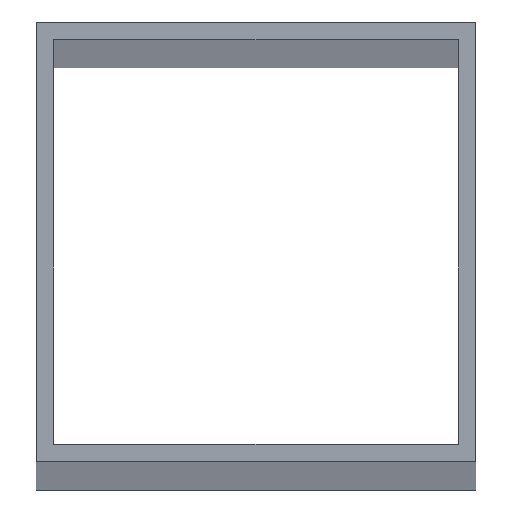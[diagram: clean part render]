
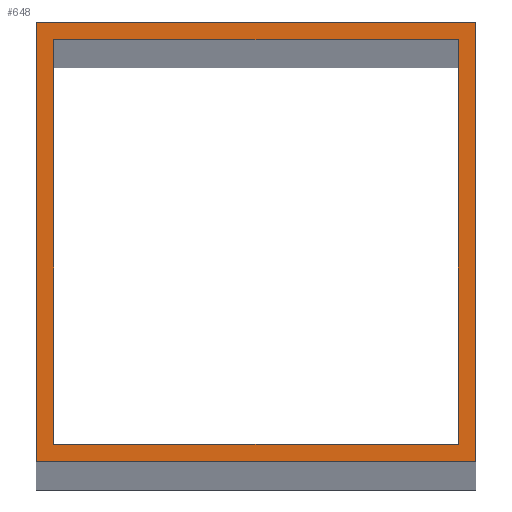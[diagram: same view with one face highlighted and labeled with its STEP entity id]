
A CAD part, top view. The second image highlights one B-rep face of the part: STEP entity #648.
In plain terms, the highlighted planar face has unit normal (0, 0, 1).
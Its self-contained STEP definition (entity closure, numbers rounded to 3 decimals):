
#24 = VERTEX_POINT('',#25);
#25 = CARTESIAN_POINT('',(75.,-75.,5488.));
#32 = PLANE('',#33);
#33 = AXIS2_PLACEMENT_3D('',#34,#35,#36);
#34 = CARTESIAN_POINT('',(75.,-75.,0.));
#35 = DIRECTION('',(-0.,1.,-0.));
#36 = DIRECTION('',(1.,0.,0.));
#44 = PLANE('',#45);
#45 = AXIS2_PLACEMENT_3D('',#46,#47,#48);
#46 = CARTESIAN_POINT('',(75.,75.,0.));
#47 = DIRECTION('',(-1.,-0.,-0.));
#48 = DIRECTION('',(0.,1.,0.));
#56 = EDGE_CURVE('',#24,#57,#59,.T.);
#57 = VERTEX_POINT('',#58);
#58 = CARTESIAN_POINT('',(-75.,-75.,5488.));
#59 = SURFACE_CURVE('',#60,(#64,#71),.PCURVE_S1.);
#60 = LINE('',#61,#62);
#61 = CARTESIAN_POINT('',(75.,-75.,5488.));
#62 = VECTOR('',#63,1.);
#63 = DIRECTION('',(-1.,-0.,-0.));
#64 = PCURVE('',#32,#65);
#65 = DEFINITIONAL_REPRESENTATION('',(#66),#70);
#66 = LINE('',#67,#68);
#67 = CARTESIAN_POINT('',(-0.,-5488.));
#68 = VECTOR('',#69,1.);
#69 = DIRECTION('',(-1.,0.));
#70 = ( GEOMETRIC_REPRESENTATION_CONTEXT(2) 
PARAMETRIC_REPRESENTATION_CONTEXT() REPRESENTATION_CONTEXT('2D SPACE',''
  ) );
#71 = PCURVE('',#72,#77);
#72 = PLANE('',#73);
#73 = AXIS2_PLACEMENT_3D('',#74,#75,#76);
#74 = CARTESIAN_POINT('',(0.,0.,5488.));
#75 = DIRECTION('',(-0.,-0.,1.));
#76 = DIRECTION('',(1.,0.,0.));
#77 = DEFINITIONAL_REPRESENTATION('',(#78),#82);
#78 = LINE('',#79,#80);
#79 = CARTESIAN_POINT('',(75.,-75.));
#80 = VECTOR('',#81,1.);
#81 = DIRECTION('',(-1.,0.));
#82 = ( GEOMETRIC_REPRESENTATION_CONTEXT(2) 
PARAMETRIC_REPRESENTATION_CONTEXT() REPRESENTATION_CONTEXT('2D SPACE',''
  ) );
#100 = PLANE('',#101);
#101 = AXIS2_PLACEMENT_3D('',#102,#103,#104);
#102 = CARTESIAN_POINT('',(-75.,-75.,0.));
#103 = DIRECTION('',(1.,-0.,-0.));
#104 = DIRECTION('',(0.,-1.,0.));
#142 = EDGE_CURVE('',#57,#143,#145,.T.);
#143 = VERTEX_POINT('',#144);
#144 = CARTESIAN_POINT('',(-75.,75.,5488.));
#145 = SURFACE_CURVE('',#146,(#150,#157),.PCURVE_S1.);
#146 = LINE('',#147,#148);
#147 = CARTESIAN_POINT('',(-75.,-75.,5488.));
#148 = VECTOR('',#149,1.);
#149 = DIRECTION('',(-0.,1.,-0.));
#150 = PCURVE('',#100,#151);
#151 = DEFINITIONAL_REPRESENTATION('',(#152),#156);
#152 = LINE('',#153,#154);
#153 = CARTESIAN_POINT('',(-0.,-5488.));
#154 = VECTOR('',#155,1.);
#155 = DIRECTION('',(-1.,0.));
#156 = ( GEOMETRIC_REPRESENTATION_CONTEXT(2) 
PARAMETRIC_REPRESENTATION_CONTEXT() REPRESENTATION_CONTEXT('2D SPACE',''
  ) );
#157 = PCURVE('',#72,#158);
#158 = DEFINITIONAL_REPRESENTATION('',(#159),#163);
#159 = LINE('',#160,#161);
#160 = CARTESIAN_POINT('',(-75.,-75.));
#161 = VECTOR('',#162,1.);
#162 = DIRECTION('',(-0.,1.));
#163 = ( GEOMETRIC_REPRESENTATION_CONTEXT(2) 
PARAMETRIC_REPRESENTATION_CONTEXT() REPRESENTATION_CONTEXT('2D SPACE',''
  ) );
#181 = PLANE('',#182);
#182 = AXIS2_PLACEMENT_3D('',#183,#184,#185);
#183 = CARTESIAN_POINT('',(-75.,75.,0.));
#184 = DIRECTION('',(-0.,-1.,-0.));
#185 = DIRECTION('',(-1.,0.,0.));
#218 = EDGE_CURVE('',#143,#219,#221,.T.);
#219 = VERTEX_POINT('',#220);
#220 = CARTESIAN_POINT('',(75.,75.,5488.));
#221 = SURFACE_CURVE('',#222,(#226,#233),.PCURVE_S1.);
#222 = LINE('',#223,#224);
#223 = CARTESIAN_POINT('',(-75.,75.,5488.));
#224 = VECTOR('',#225,1.);
#225 = DIRECTION('',(1.,-0.,-0.));
#226 = PCURVE('',#181,#227);
#227 = DEFINITIONAL_REPRESENTATION('',(#228),#232);
#228 = LINE('',#229,#230);
#229 = CARTESIAN_POINT('',(-0.,-5488.));
#230 = VECTOR('',#231,1.);
#231 = DIRECTION('',(-1.,0.));
#232 = ( GEOMETRIC_REPRESENTATION_CONTEXT(2) 
PARAMETRIC_REPRESENTATION_CONTEXT() REPRESENTATION_CONTEXT('2D SPACE',''
  ) );
#233 = PCURVE('',#72,#234);
#234 = DEFINITIONAL_REPRESENTATION('',(#235),#239);
#235 = LINE('',#236,#237);
#236 = CARTESIAN_POINT('',(-75.,75.));
#237 = VECTOR('',#238,1.);
#238 = DIRECTION('',(1.,-0.));
#239 = ( GEOMETRIC_REPRESENTATION_CONTEXT(2) 
PARAMETRIC_REPRESENTATION_CONTEXT() REPRESENTATION_CONTEXT('2D SPACE',''
  ) );
#289 = EDGE_CURVE('',#219,#24,#290,.T.);
#290 = SURFACE_CURVE('',#291,(#295,#302),.PCURVE_S1.);
#291 = LINE('',#292,#293);
#292 = CARTESIAN_POINT('',(75.,75.,5488.));
#293 = VECTOR('',#294,1.);
#294 = DIRECTION('',(-0.,-1.,-0.));
#295 = PCURVE('',#44,#296);
#296 = DEFINITIONAL_REPRESENTATION('',(#297),#301);
#297 = LINE('',#298,#299);
#298 = CARTESIAN_POINT('',(-0.,-5488.));
#299 = VECTOR('',#300,1.);
#300 = DIRECTION('',(-1.,0.));
#301 = ( GEOMETRIC_REPRESENTATION_CONTEXT(2) 
PARAMETRIC_REPRESENTATION_CONTEXT() REPRESENTATION_CONTEXT('2D SPACE',''
  ) );
#302 = PCURVE('',#72,#303);
#303 = DEFINITIONAL_REPRESENTATION('',(#304),#308);
#304 = LINE('',#305,#306);
#305 = CARTESIAN_POINT('',(75.,75.));
#306 = VECTOR('',#307,1.);
#307 = DIRECTION('',(-0.,-1.));
#308 = ( GEOMETRIC_REPRESENTATION_CONTEXT(2) 
PARAMETRIC_REPRESENTATION_CONTEXT() REPRESENTATION_CONTEXT('2D SPACE',''
  ) );
#338 = VERTEX_POINT('',#339);
#339 = CARTESIAN_POINT('',(69.,-69.,5488.));
#346 = PLANE('',#347);
#347 = AXIS2_PLACEMENT_3D('',#348,#349,#350);
#348 = CARTESIAN_POINT('',(69.,-69.,0.));
#349 = DIRECTION('',(-0.,1.,-0.));
#350 = DIRECTION('',(1.,0.,0.));
#358 = PLANE('',#359);
#359 = AXIS2_PLACEMENT_3D('',#360,#361,#362);
#360 = CARTESIAN_POINT('',(69.,69.,0.));
#361 = DIRECTION('',(-1.,-0.,-0.));
#362 = DIRECTION('',(0.,1.,0.));
#370 = EDGE_CURVE('',#338,#371,#373,.T.);
#371 = VERTEX_POINT('',#372);
#372 = CARTESIAN_POINT('',(-69.,-69.,5488.));
#373 = SURFACE_CURVE('',#374,(#378,#385),.PCURVE_S1.);
#374 = LINE('',#375,#376);
#375 = CARTESIAN_POINT('',(69.,-69.,5488.));
#376 = VECTOR('',#377,1.);
#377 = DIRECTION('',(-1.,-0.,-0.));
#378 = PCURVE('',#346,#379);
#379 = DEFINITIONAL_REPRESENTATION('',(#380),#384);
#380 = LINE('',#381,#382);
#381 = CARTESIAN_POINT('',(-0.,-5488.));
#382 = VECTOR('',#383,1.);
#383 = DIRECTION('',(-1.,0.));
#384 = ( GEOMETRIC_REPRESENTATION_CONTEXT(2) 
PARAMETRIC_REPRESENTATION_CONTEXT() REPRESENTATION_CONTEXT('2D SPACE',''
  ) );
#385 = PCURVE('',#72,#386);
#386 = DEFINITIONAL_REPRESENTATION('',(#387),#391);
#387 = LINE('',#388,#389);
#388 = CARTESIAN_POINT('',(69.,-69.));
#389 = VECTOR('',#390,1.);
#390 = DIRECTION('',(-1.,0.));
#391 = ( GEOMETRIC_REPRESENTATION_CONTEXT(2) 
PARAMETRIC_REPRESENTATION_CONTEXT() REPRESENTATION_CONTEXT('2D SPACE',''
  ) );
#409 = PLANE('',#410);
#410 = AXIS2_PLACEMENT_3D('',#411,#412,#413);
#411 = CARTESIAN_POINT('',(-69.,-69.,0.));
#412 = DIRECTION('',(1.,-0.,-0.));
#413 = DIRECTION('',(0.,-1.,0.));
#446 = EDGE_CURVE('',#371,#447,#449,.T.);
#447 = VERTEX_POINT('',#448);
#448 = CARTESIAN_POINT('',(-69.,69.,5488.));
#449 = SURFACE_CURVE('',#450,(#454,#461),.PCURVE_S1.);
#450 = LINE('',#451,#452);
#451 = CARTESIAN_POINT('',(-69.,-69.,5488.));
#452 = VECTOR('',#453,1.);
#453 = DIRECTION('',(-0.,1.,-0.));
#454 = PCURVE('',#409,#455);
#455 = DEFINITIONAL_REPRESENTATION('',(#456),#460);
#456 = LINE('',#457,#458);
#457 = CARTESIAN_POINT('',(-0.,-5488.));
#458 = VECTOR('',#459,1.);
#459 = DIRECTION('',(-1.,0.));
#460 = ( GEOMETRIC_REPRESENTATION_CONTEXT(2) 
PARAMETRIC_REPRESENTATION_CONTEXT() REPRESENTATION_CONTEXT('2D SPACE',''
  ) );
#461 = PCURVE('',#72,#462);
#462 = DEFINITIONAL_REPRESENTATION('',(#463),#467);
#463 = LINE('',#464,#465);
#464 = CARTESIAN_POINT('',(-69.,-69.));
#465 = VECTOR('',#466,1.);
#466 = DIRECTION('',(-0.,1.));
#467 = ( GEOMETRIC_REPRESENTATION_CONTEXT(2) 
PARAMETRIC_REPRESENTATION_CONTEXT() REPRESENTATION_CONTEXT('2D SPACE',''
  ) );
#485 = PLANE('',#486);
#486 = AXIS2_PLACEMENT_3D('',#487,#488,#489);
#487 = CARTESIAN_POINT('',(-69.,69.,0.));
#488 = DIRECTION('',(-0.,-1.,-0.));
#489 = DIRECTION('',(-1.,0.,0.));
#522 = EDGE_CURVE('',#447,#523,#525,.T.);
#523 = VERTEX_POINT('',#524);
#524 = CARTESIAN_POINT('',(69.,69.,5488.));
#525 = SURFACE_CURVE('',#526,(#530,#537),.PCURVE_S1.);
#526 = LINE('',#527,#528);
#527 = CARTESIAN_POINT('',(-69.,69.,5488.));
#528 = VECTOR('',#529,1.);
#529 = DIRECTION('',(1.,-0.,-0.));
#530 = PCURVE('',#485,#531);
#531 = DEFINITIONAL_REPRESENTATION('',(#532),#536);
#532 = LINE('',#533,#534);
#533 = CARTESIAN_POINT('',(-0.,-5488.));
#534 = VECTOR('',#535,1.);
#535 = DIRECTION('',(-1.,0.));
#536 = ( GEOMETRIC_REPRESENTATION_CONTEXT(2) 
PARAMETRIC_REPRESENTATION_CONTEXT() REPRESENTATION_CONTEXT('2D SPACE',''
  ) );
#537 = PCURVE('',#72,#538);
#538 = DEFINITIONAL_REPRESENTATION('',(#539),#543);
#539 = LINE('',#540,#541);
#540 = CARTESIAN_POINT('',(-69.,69.));
#541 = VECTOR('',#542,1.);
#542 = DIRECTION('',(1.,-0.));
#543 = ( GEOMETRIC_REPRESENTATION_CONTEXT(2) 
PARAMETRIC_REPRESENTATION_CONTEXT() REPRESENTATION_CONTEXT('2D SPACE',''
  ) );
#593 = EDGE_CURVE('',#523,#338,#594,.T.);
#594 = SURFACE_CURVE('',#595,(#599,#606),.PCURVE_S1.);
#595 = LINE('',#596,#597);
#596 = CARTESIAN_POINT('',(69.,69.,5488.));
#597 = VECTOR('',#598,1.);
#598 = DIRECTION('',(-0.,-1.,-0.));
#599 = PCURVE('',#358,#600);
#600 = DEFINITIONAL_REPRESENTATION('',(#601),#605);
#601 = LINE('',#602,#603);
#602 = CARTESIAN_POINT('',(-0.,-5488.));
#603 = VECTOR('',#604,1.);
#604 = DIRECTION('',(-1.,0.));
#605 = ( GEOMETRIC_REPRESENTATION_CONTEXT(2) 
PARAMETRIC_REPRESENTATION_CONTEXT() REPRESENTATION_CONTEXT('2D SPACE',''
  ) );
#606 = PCURVE('',#72,#607);
#607 = DEFINITIONAL_REPRESENTATION('',(#608),#612);
#608 = LINE('',#609,#610);
#609 = CARTESIAN_POINT('',(69.,69.));
#610 = VECTOR('',#611,1.);
#611 = DIRECTION('',(-0.,-1.));
#612 = ( GEOMETRIC_REPRESENTATION_CONTEXT(2) 
PARAMETRIC_REPRESENTATION_CONTEXT() REPRESENTATION_CONTEXT('2D SPACE',''
  ) );
#648 = ADVANCED_FACE('',(#649,#655),#72,.T.);
#649 = FACE_BOUND('',#650,.F.);
#650 = EDGE_LOOP('',(#651,#652,#653,#654));
#651 = ORIENTED_EDGE('',*,*,#56,.T.);
#652 = ORIENTED_EDGE('',*,*,#142,.T.);
#653 = ORIENTED_EDGE('',*,*,#218,.T.);
#654 = ORIENTED_EDGE('',*,*,#289,.T.);
#655 = FACE_BOUND('',#656,.T.);
#656 = EDGE_LOOP('',(#657,#658,#659,#660));
#657 = ORIENTED_EDGE('',*,*,#370,.T.);
#658 = ORIENTED_EDGE('',*,*,#446,.T.);
#659 = ORIENTED_EDGE('',*,*,#522,.T.);
#660 = ORIENTED_EDGE('',*,*,#593,.T.);
